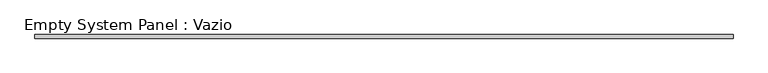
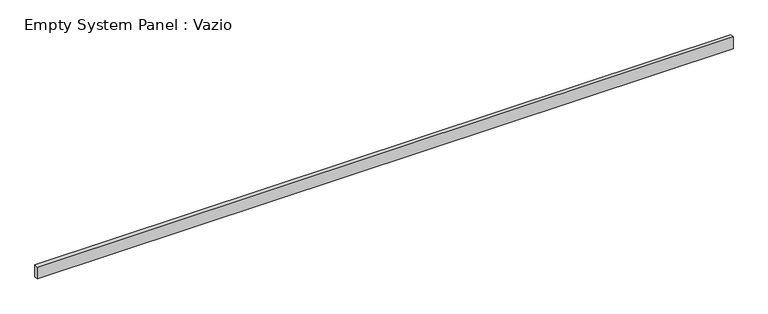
"""IFC4 building model written with IfcOpenShell, lengths in millimetres: plate geometry, Empty System Panel : Vazio."""

from ifc_helpers import new_model, si_unit, origin, origin_with_axes, place, context, project, spatial, polyline, outline, extrude, source, transform, mapped, element, save


def empty_system_panel_vazio_b184a250(model_context):
    return source(origin(), model_context, "Body", "SweptSolid", [
        extrude(outline(polyline([(9600.0, 50.0), (-9600.0, 50.0), (-9600.0, 150.0), (9600.0, 150.0), (9600.0, 50.0)])), origin_with_axes(), (0.0, 0.0, 1.0), 343.4863753),
    ])


if __name__ == "__main__":
    model = new_model("IFC4")
    model_context = context("Model", 3, world=origin())
    ifc_project = project(units=[si_unit("LENGTHUNIT", "METRE", prefix="MILLI")], contexts=[model_context])
    site = spatial("IfcSite", under=ifc_project)
    building = spatial("IfcBuilding", under=site)
    placement = place(None, origin())
    empty_system_panel_vazio_shape = empty_system_panel_vazio_b184a250(model_context)
    element("IfcPlate", 1, ObjectType="Empty System Panel : Vazio", at=placement, inside=building, context=model_context, shape_type="MappedRepresentation", body=[
        mapped(empty_system_panel_vazio_shape, transform((0.0, 0.0, 0.0), x_axis=(1.0, 0.0, 0.0), y_axis=(0.0, 1.0, 0.0), z_axis=(0.0, 0.0, 1.0))),
    ])
    save(model, "model.ifc")
